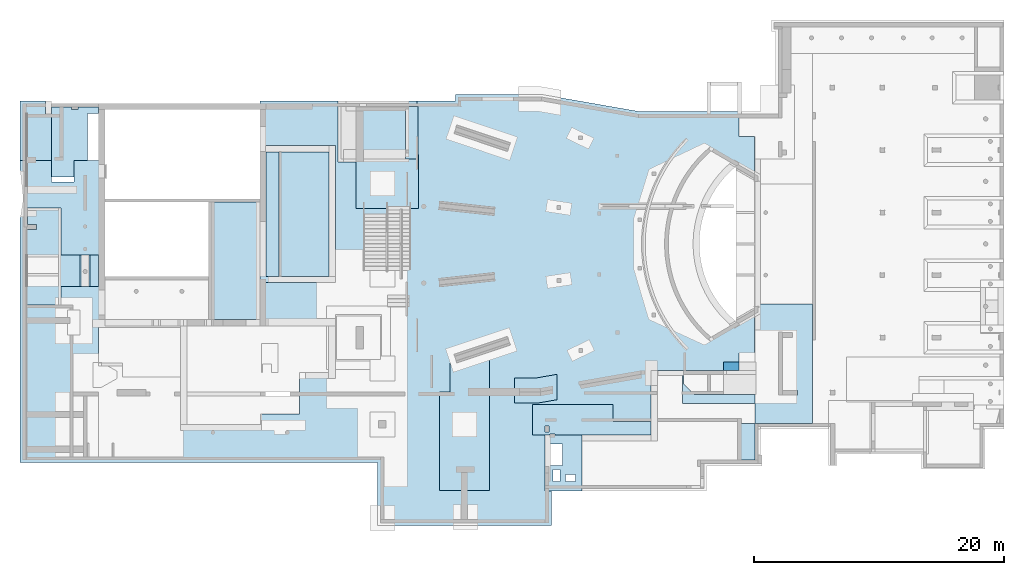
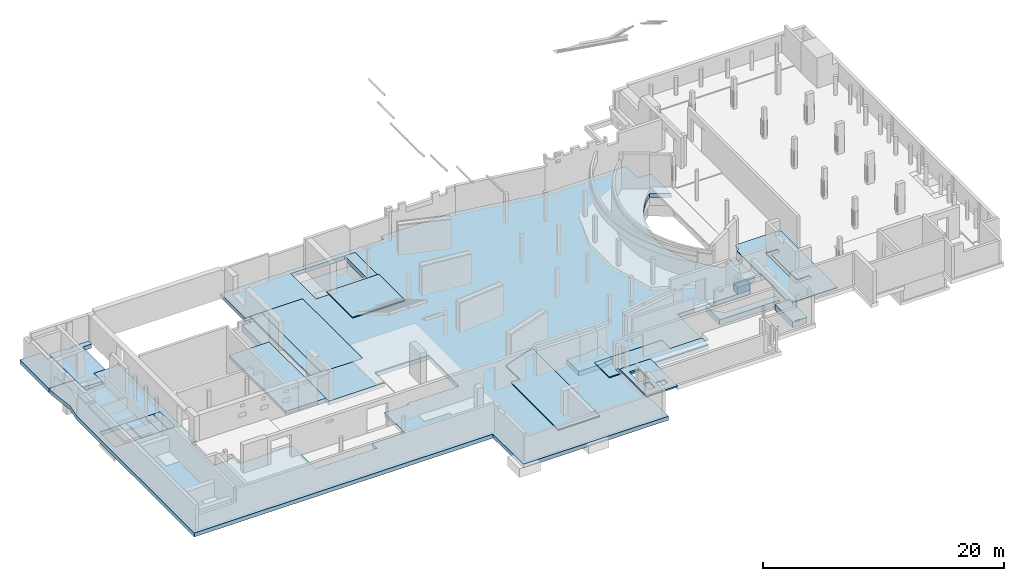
# One storey, part 29 of 42: 21 slabs, 8 openings.
"""IFC2X3 building model written with IfcOpenShell, lengths in millimetres."""

from ifc_helpers import new_model, entity, si_unit, converted_unit, derived_unit, direction, frame, frame_2d, origin, origin_2d_with_axis, place, context, subcontext, project, spatial, polyline, circle_curve, parameter, trimmed, segment, composite_curve, rectangle, circle, outline, extrude, material, layer, layer_set, layer_usage, type_object, element, save


model = new_model("IFC2X3")

# Units and contexts
model_context = context("Model", 3, precision=0.01, world=origin(), true_north=direction((6.12303176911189e-17, 1.0)))
body_context = subcontext(model_context, "Body", "Model", "MODEL_VIEW")
ifc_project = project(units=[si_unit("LENGTHUNIT", "METRE", prefix="MILLI"), si_unit("AREAUNIT", "SQUARE_METRE", prefix="MILLI"), si_unit("VOLUMEUNIT", "CUBIC_METRE"), converted_unit("PLANEANGLEUNIT", "DEGREE", entity("IfcRatioMeasure", 0.0174532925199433), si_unit("PLANEANGLEUNIT", "RADIAN"), dimensions=[0, 0, 0, 0, 0, 0, 0]), si_unit("MASSUNIT", "GRAM", prefix="KILO"), derived_unit("MASSDENSITYUNIT", [(si_unit("MASSUNIT", "GRAM", prefix="KILO"), 1), (si_unit("LENGTHUNIT", "METRE"), -3)]), derived_unit("MOMENTOFINERTIAUNIT", [(si_unit("LENGTHUNIT", "METRE"), 4)]), si_unit("TIMEUNIT", "SECOND"), si_unit("FREQUENCYUNIT", "HERTZ"), si_unit("THERMODYNAMICTEMPERATUREUNIT", "DEGREE_CELSIUS"), derived_unit("THERMALTRANSMITTANCEUNIT", [(si_unit("MASSUNIT", "GRAM", prefix="KILO"), 1), (si_unit("THERMODYNAMICTEMPERATUREUNIT", "KELVIN"), -1), (si_unit("TIMEUNIT", "SECOND"), -3)]), derived_unit("VOLUMETRICFLOWRATEUNIT", [(si_unit("LENGTHUNIT", "METRE"), 3), (si_unit("TIMEUNIT", "SECOND"), -1)]), si_unit("ELECTRICCURRENTUNIT", "AMPERE"), si_unit("ELECTRICVOLTAGEUNIT", "VOLT"), si_unit("POWERUNIT", "WATT"), si_unit("FORCEUNIT", "NEWTON", prefix="KILO"), si_unit("ILLUMINANCEUNIT", "LUX"), si_unit("LUMINOUSFLUXUNIT", "LUMEN"), si_unit("LUMINOUSINTENSITYUNIT", "CANDELA"), derived_unit("USERDEFINED", [(si_unit("MASSUNIT", "GRAM", prefix="KILO"), -1), (si_unit("LENGTHUNIT", "METRE"), -2), (si_unit("TIMEUNIT", "SECOND"), 3), (si_unit("LUMINOUSFLUXUNIT", "LUMEN"), 1)]), derived_unit("LINEARVELOCITYUNIT", [(si_unit("LENGTHUNIT", "METRE"), 1), (si_unit("TIMEUNIT", "SECOND"), -1)]), si_unit("PRESSUREUNIT", "PASCAL"), derived_unit("USERDEFINED", [(si_unit("LENGTHUNIT", "METRE"), -2), (si_unit("MASSUNIT", "GRAM", prefix="KILO"), 1), (si_unit("TIMEUNIT", "SECOND"), -2)]), derived_unit("LINEARFORCEUNIT", [(si_unit("MASSUNIT", "GRAM", prefix="KILO"), 1), (si_unit("LENGTHUNIT", "METRE"), 1), (si_unit("TIMEUNIT", "SECOND"), -2), (si_unit("LENGTHUNIT", "METRE"), -1)]), derived_unit("PLANARFORCEUNIT", [(si_unit("MASSUNIT", "GRAM", prefix="KILO"), 1), (si_unit("LENGTHUNIT", "METRE"), 1), (si_unit("TIMEUNIT", "SECOND"), -2), (si_unit("LENGTHUNIT", "METRE"), -2)])], contexts=[model_context])

# Site, building, storey
site_placement = place(None, origin())
site = spatial("IfcSite", under=ifc_project, at=site_placement, Name="Theater aan de Parade", CompositionType="ELEMENT")
building_placement = place(site_placement, origin())
building = spatial("IfcBuilding", under=site, at=building_placement, Name="Theater aan de Parade", CompositionType="ELEMENT")
storey_placement = place(building_placement, frame((0.0, 0.0, -3300.0)))
storey = spatial("IfcBuildingStorey", under=building, at=storey_placement, Name="-1 kelder", CompositionType="ELEMENT", Elevation=-3300.0)

# Slab, openings
ifc_material_1 = material(Name="00_PBT_MAT_beton t.p.g.")
ifc_layer_1 = layer(ifc_material_1, 400.0)
ifc_layer_set_1 = layer_set([ifc_layer_1], Name="Foundation Slab:13_PBT_FS_beton t.p.g._d=400_bestaand")
ifc_layer_usage_1 = layer_usage(ifc_layer_set_1, "AXIS3", "POSITIVE", 0.0)
slab_type_1 = type_object("IfcSlabType", Name="Foundation Slab:13_PBT_FS_beton t.p.g._d=400_bestaand", PredefinedType="BASESLAB")
slab_1_placement = place(storey_placement, frame((9990.0, 9960.0, -440.0)))
slab_1 = element("IfcSlab", 1, at=slab_1_placement, inside=storey, type_object=slab_type_1, material=ifc_layer_usage_1, Name="Foundation Slab:13_PBT_FS_beton t.p.g._d=400_bestaand", ObjectType="Foundation Slab:13_PBT_FS_beton t.p.g._d=400_bestaand", PredefinedType="BASESLAB", context=body_context, shape_type="SweptSolid", body=[
    extrude(outline(composite_curve([segment(polyline([(29375.8243425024, 11373.1771208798), (29375.8243425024, 11935.0)]), True, "CONTINUOUS"), segment(polyline([(29375.8243425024, 11935.0), (26855.8243425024, 11935.0)]), True, "CONTINUOUS"), segment(polyline([(26855.8243425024, 11935.0), (26855.8243425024, 10231.6178623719)]), True, "CONTINUOUS"), segment(polyline([(26855.8243425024, 10231.6178623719), (25055.8243425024, 10231.6178623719)]), True, "CONTINUOUS"), segment(polyline([(25055.8243425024, 10231.6178623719), (25055.8243425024, 11965.0)]), True, "CONTINUOUS"), segment(polyline([(25055.8243425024, 11965.0), (23090.8243425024, 11965.0)]), True, "CONTINUOUS"), segment(polyline([(23090.8243425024, 11965.0), (23090.8243425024, 12065.0)]), True, "CONTINUOUS"), segment(polyline([(23090.8243425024, 12065.0), (22590.8243425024, 12065.0)]), True, "CONTINUOUS"), segment(polyline([(22590.8243425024, 12065.0), (22590.8243425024, -775.0)]), True, "CONTINUOUS"), segment(polyline([(22590.8243425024, -775.0), (23090.8243425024, -775.0)]), True, "CONTINUOUS"), segment(polyline([(23090.8243425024, -775.0), (23090.8243425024, -4495.0)]), True, "CONTINUOUS"), segment(polyline([(23090.8243425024, -4495.0), (21185.8243425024, -4495.0)]), True, "CONTINUOUS"), segment(polyline([(21185.8243425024, -4495.0), (21185.8243425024, -5345.0)]), True, "CONTINUOUS"), segment(polyline([(21185.8243425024, -5345.0), (16040.8243425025, -5345.0)]), True, "CONTINUOUS"), segment(polyline([(16040.8243425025, -5345.0), (16040.8243425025, -9145.0)]), True, "CONTINUOUS"), segment(polyline([(16040.8243425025, -9145.0), (10125.8243425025, -9145.0)]), True, "CONTINUOUS"), segment(polyline([(10125.8243425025, -9145.0), (10125.8243425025, -8320.0)]), True, "CONTINUOUS"), segment(polyline([(10125.8243425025, -8320.0), (7025.82434250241, -8320.0)]), True, "CONTINUOUS"), segment(polyline([(7025.82434250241, -8320.0), (7025.82434250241, -4995.0)]), True, "CONTINUOUS"), segment(polyline([(7025.82434250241, -4995.0), (4685.8243425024, -4995.0)]), True, "CONTINUOUS"), segment(polyline([(4685.8243425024, -4995.0), (4685.8243425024, -4772.63259660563)]), True, "CONTINUOUS"), segment(polyline([(4685.8243425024, -4772.63259660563), (-239.175657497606, -4772.63259660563)]), True, "CONTINUOUS"), segment(polyline([(-239.175657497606, -4772.63259660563), (-239.175657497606, 327.367403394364)]), True, "CONTINUOUS"), segment(polyline([(-239.175657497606, 327.367403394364), (4860.82434250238, 327.367403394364)]), True, "CONTINUOUS"), segment(polyline([(4860.82434250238, 327.367403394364), (4860.82434250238, -1275.0)]), True, "CONTINUOUS"), segment(polyline([(4860.82434250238, -1275.0), (10190.8243425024, -1275.0)]), True, "CONTINUOUS"), segment(polyline([(10190.8243425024, -1275.0), (10190.8243425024, 2675.0)]), True, "CONTINUOUS"), segment(polyline([(10190.8243425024, 2675.0), (4675.8243425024, 2675.0)]), True, "CONTINUOUS"), segment(polyline([(4675.8243425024, 2675.0), (4675.8243425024, 12635.0)]), True, "CONTINUOUS"), segment(polyline([(4675.8243425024, 12635.0), (10190.8243425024, 12635.0)]), True, "CONTINUOUS"), segment(polyline([(10190.8243425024, 12635.0), (10190.8243425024, 16715.0)]), True, "CONTINUOUS"), segment(polyline([(10190.8243425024, 16715.0), (-5459.17565749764, 16715.0)]), True, "CONTINUOUS"), segment(polyline([(-5459.17565749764, 16715.0), (-5459.17565749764, 17225.0)]), True, "CONTINUOUS"), segment(polyline([(-5459.17565749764, 17225.0), (-12376.1671581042, 17225.0)]), True, "CONTINUOUS"), segment(polyline([(-12376.1671581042, 17225.0), (-20147.5957295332, 15865.0)]), True, "CONTINUOUS"), segment(polyline([(-20147.5957295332, 15865.0), (-28124.0237350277, 15865.0)]), True, "CONTINUOUS"), segment(polyline([(-28124.0237350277, 15865.0), (-28124.0237350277, 13875.0)]), True, "CONTINUOUS"), segment(polyline([(-28124.0237350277, 13875.0), (-29375.8243425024, 13875.0)]), True, "CONTINUOUS"), segment(polyline([(-29375.8243425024, 13875.0), (-29375.8243425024, 10512.0021356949)]), True, "CONTINUOUS"), segment(polyline([(-29375.8243425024, 10512.0021356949), (-27805.473256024, 11418.4814635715)]), True, "CONTINUOUS"), segment(trimmed(circle_curve(frame_2d((-32980.8166214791, 5280.44664939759), x_axis=(-1.0, 0.0)), 8028.67674840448), [parameter(129.867266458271)], [parameter(229.863764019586)], True, "PARAMETER"), False, "CONTINUOUS"), segment(polyline([(-27834.3445893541, -881.815593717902), (-29345.5161834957, -9.49740783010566)]), True, "CONTINUOUS"), segment(polyline([(-29345.5161834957, -9.49740783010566), (-29345.5161834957, -3425.0)]), True, "CONTINUOUS"), segment(polyline([(-29345.5161834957, -3425.0), (-28104.1756574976, -3425.0)]), True, "CONTINUOUS"), segment(polyline([(-28104.1756574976, -3425.0), (-28104.1756574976, -4845.0)]), True, "CONTINUOUS"), segment(polyline([(-28104.1756574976, -4845.0), (-21104.1756574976, -4845.0)]), True, "CONTINUOUS"), segment(polyline([(-21104.1756574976, -4845.0), (-21104.1756574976, -9985.0)]), True, "CONTINUOUS"), segment(polyline([(-21104.1756574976, -9985.0), (-13059.1756574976, -9985.0)]), True, "CONTINUOUS"), segment(polyline([(-13059.1756574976, -9985.0), (-13059.1756574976, -14475.0)]), True, "CONTINUOUS"), segment(polyline([(-13059.1756574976, -14475.0), (-13109.1756574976, -14475.0)]), True, "CONTINUOUS"), segment(polyline([(-13109.1756574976, -14475.0), (-13109.1756574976, -17225.0)]), True, "CONTINUOUS"), segment(polyline([(-13109.1756574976, -17225.0), (790.824342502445, -17225.0)]), True, "CONTINUOUS"), segment(polyline([(790.824342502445, -17225.0), (790.824342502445, -12195.0)]), True, "CONTINUOUS"), segment(polyline([(790.824342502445, -12195.0), (29375.8243425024, -12195.0)]), True, "CONTINUOUS"), segment(polyline([(29375.8243425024, -12195.0), (29375.8243425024, 7210.57943579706)]), True, "CONTINUOUS"), segment(polyline([(29375.8243425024, 7210.57943579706), (29115.6619871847, 8864.46869460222)]), True, "CONTINUOUS"), segment(polyline([(29115.6619871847, 8864.46869460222), (29375.8243425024, 11373.1771208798)]), True, "CONTINUOUS")], self_intersect=False)), frame((29375.8243425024, 17225.0, 400.0), z_axis=(0.0, 0.0, -1.0), x_axis=(-1.0, 0.0, 0.0)), (0.0, 0.0, 1.0), 400.0),
])
opening_1_placement = place(slab_1_placement, frame((3392.5, 20355.0, 400.0)))
element("IfcOpeningElement", 2, at=opening_1_placement, cuts=slab_1, Name="Foundation Slab:13_PBT_FS_beton t.p.g._d=400_bestaand:2", ObjectType="Opening", context=body_context, shape_type="SweptSolid", body=[
    extrude(rectangle(XDim=2499.99999999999, YDim=5785.00000000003, at=origin_2d_with_axis()), frame((0.0, 0.0, 0.0), z_axis=(0.0, 0.0, -1.0), x_axis=(0.0, -1.0, 0.0)), (0.0, 0.0, 1.0), 400.0),
])
opening_2_placement = place(slab_1_placement, frame((28743.869722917, 31390.0, 400.0)))
element("IfcOpeningElement", 3, at=opening_2_placement, cuts=slab_1, Name="Foundation Slab:13_PBT_FS_beton t.p.g._d=400_bestaand:3", ObjectType="Opening", context=body_context, shape_type="SweptSolid", body=[
    extrude(rectangle(XDim=4200.00000559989, YDim=6160.02318566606, at=origin_2d_with_axis()), frame((0.0, 0.0, 0.0), z_axis=(0.0, 0.0, 1.0), x_axis=(0.0, 1.0, 0.0)), (0.0, 0.0, -1.0), 400.0),
])

# Slabs
ifc_layer_2 = layer(ifc_material_1, 960.0)
ifc_layer_set_2 = layer_set([ifc_layer_2], Name="Foundation Slab:13_PBT_FS_beton t.p.g._d=960_bestaand")
ifc_layer_usage_2 = layer_usage(ifc_layer_set_2, "AXIS3", "POSITIVE", 0.0)
slab_type_2 = type_object("IfcSlabType", Name="Foundation Slab:13_PBT_FS_beton t.p.g._d=960_bestaand", PredefinedType="BASESLAB", material=ifc_layer_set_2)
slab_2_placement = place(storey_placement, origin())
element("IfcSlab", 4, at=slab_2_placement, inside=storey, type_object=slab_type_2, material=ifc_layer_usage_2, Name="Foundation Slab:13_PBT_FS_beton t.p.g._d=960_bestaand", ObjectType="Foundation Slab:13_PBT_FS_beton t.p.g._d=960_bestaand", PredefinedType="BASESLAB", context=body_context, shape_type="SweptSolid", body=[
    extrude(outline(polyline([(-3973.57020508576, -358.577545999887), (-3973.57020508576, -1078.56898160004), (1801.4297949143, -1078.56898160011), (1801.42979491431, 1176.43101839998), (1741.42979491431, 1176.43101839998), (1741.42979491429, 521.431018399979), (861.421230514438, -358.577545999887), (-3973.57020508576, -358.577545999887)])), frame((64776.4297949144, 20763.5689815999, -440.0), z_axis=(0.0, 0.0, -1.0), x_axis=(-1.0, 0.0, 0.0)), (0.0, 0.0, -1.0), 560.0),
])
ifc_layer_3 = layer(ifc_material_1, 150.0)
ifc_layer_set_3 = layer_set([ifc_layer_3], Name="Floor:28_PBT_FL_beton t.p.g._d=150_bestaand")
ifc_layer_usage_3 = layer_usage(ifc_layer_set_3, "AXIS3", "POSITIVE", 0.0)
slab_type_3 = type_object("IfcSlabType", Name="Floor:28_PBT_FL_beton t.p.g._d=150_bestaand", PredefinedType="FLOOR", material=ifc_layer_set_3)
slab_3_placement = place(storey_placement, origin())
element("IfcSlab", 5, at=slab_3_placement, inside=storey, type_object=slab_type_3, material=ifc_layer_usage_3, Name="Floor:28_PBT_FL_beton t.p.g._d=150_bestaand", ObjectType="Floor:28_PBT_FL_beton t.p.g._d=150_bestaand", PredefinedType="FLOOR", context=body_context, shape_type="SweptSolid", body=[
    extrude(outline(polyline([(-2577.77777777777, -1516.66666666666), (1912.22222222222, -1516.66666666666), (1912.22222222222, -1116.66666666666), (1912.22222222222, 23.3333333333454), (1912.22222222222, 973.333333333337), (1912.22222222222, 1423.33333333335), (-1827.77777777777, 1423.33333333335), (-2577.77777777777, 1423.33333333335), (-2577.77777777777, -1116.66666666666), (-2577.77777777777, -1516.66666666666)]), holes=[polyline([(-1257.77777777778, -231.666666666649), (-1257.77777777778, -1011.66666666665), (-1827.77777777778, -1011.66666666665), (-1827.77777777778, -231.666666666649), (-1257.77777777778, -231.666666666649)]), polyline([(1162.2222222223, 23.3333333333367), (-527.777777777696, 23.333333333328), (-527.777777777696, 973.333333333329), (1162.2222222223, 973.333333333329), (1162.2222222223, 23.3333333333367)]), polyline([(-877.777777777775, 213.333333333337), (-1827.77777777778, 213.333333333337), (-1827.77777777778, 783.333333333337), (-877.777777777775, 783.333333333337), (-877.777777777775, 213.333333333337)])]), frame((53398.3333333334, 15287.7777777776, 370.0), z_axis=(0.0, 0.0, 1.0), x_axis=(0.0, 1.0, 0.0)), (0.0, 0.0, 1.0), 150.0),
])
ifc_layer_4 = layer(ifc_material_1, 900.0)
ifc_layer_set_4 = layer_set([ifc_layer_4], Name="Foundation Slab:13_PBT_FS_beton t.p.g._d=900 poer_bestaand")
ifc_layer_usage_4 = layer_usage(ifc_layer_set_4, "AXIS3", "POSITIVE", 0.0)
slab_type_4 = type_object("IfcSlabType", Name="Foundation Slab:13_PBT_FS_beton t.p.g._d=900 poer_bestaand", PredefinedType="BASESLAB", material=ifc_layer_set_4)
slab_4_placement = place(storey_placement, origin())
element("IfcSlab", 6, at=slab_4_placement, inside=storey, type_object=slab_type_4, material=ifc_layer_usage_4, Name="Foundation Slab:13_PBT_FS_beton t.p.g._d=900 poer_bestaand", ObjectType="Foundation Slab:13_PBT_FS_beton t.p.g._d=900 poer_bestaand", PredefinedType="BASESLAB", context=body_context, shape_type="SweptSolid", body=[
    extrude(outline(polyline([(-843.927322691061, -1622.67534053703), (1186.46672773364, -1622.67534053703), (914.365148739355, -67.8091748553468), (914.365148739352, 1777.32465946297), (-1085.63485126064, 1777.32465946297), (-1085.63485126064, -241.489462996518), (-843.927322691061, -1622.67534053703)])), frame((51302.324659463, 20845.6348512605, -940.0), z_axis=(0.0, 0.0, 1.0), x_axis=(0.0, 1.0, 0.0)), (0.0, 0.0, 1.0), 500.0),
])

# Slab, openings
ifc_layer_5 = layer(ifc_material_1, 700.0)
ifc_layer_set_5 = layer_set([ifc_layer_5], Name="Foundation Slab:13_PBT_FS_beton t.p.g._d=700_bestaand")
ifc_layer_usage_5 = layer_usage(ifc_layer_set_5, "AXIS3", "POSITIVE", 0.0)
slab_type_5 = type_object("IfcSlabType", Name="Foundation Slab:13_PBT_FS_beton t.p.g._d=700_bestaand", PredefinedType="BASESLAB", material=ifc_layer_set_5)
slab_5_placement = place(storey_placement, frame((29175.0, 29360.0, -1740.0)))
slab_5 = element("IfcSlab", 7, at=slab_5_placement, inside=storey, type_object=slab_type_5, material=ifc_layer_usage_5, Name="Foundation Slab:13_PBT_FS_beton t.p.g._d=700_bestaand", ObjectType="Foundation Slab:13_PBT_FS_beton t.p.g._d=700_bestaand", PredefinedType="BASESLAB", context=body_context, shape_type="SweptSolid", body=[
    extrude(rectangle(XDim=10960.0, YDim=6040.00000000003, at=frame_2d((0.0, 0.0), x_axis=(0.0, 1.0))), frame((3020.0, 5480.0, 700.0), z_axis=(0.0, 0.0, -1.0), x_axis=(-1.0, 0.0, 0.0)), (0.0, 0.0, 1.0), 700.0),
])
opening_3_placement = place(slab_5_placement, frame((4769.78647640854, 9146.06168315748, 700.0)))
element("IfcOpeningElement", 8, at=opening_3_placement, cuts=slab_5, Name="Foundation Slab:13_PBT_FS_beton t.p.g._d=700_bestaand:2", ObjectType="Opening", context=body_context, shape_type="SweptSolid", body=[
    extrude(circle(Radius=161.950000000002, at=origin_2d_with_axis()), frame((0.0, 0.0, 0.0), z_axis=(0.0, 0.0, -1.0), x_axis=(1.0, 0.0, 0.0)), (0.0, 0.0, 1.0), 700.0),
])
opening_4_placement = place(slab_5_placement, frame((2269.78647640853, 9146.06168315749, 700.0)))
element("IfcOpeningElement", 9, at=opening_4_placement, cuts=slab_5, Name="Foundation Slab:13_PBT_FS_beton t.p.g._d=700_bestaand:3", ObjectType="Opening", context=body_context, shape_type="SweptSolid", body=[
    extrude(circle(Radius=161.950000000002, at=origin_2d_with_axis()), frame((0.0, 0.0, 0.0), z_axis=(0.0, 0.0, -1.0), x_axis=(1.0, 0.0, 0.0)), (0.0, 0.0, 1.0), 700.0),
])
opening_5_placement = place(slab_5_placement, frame((4769.78647640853, 1821.4704211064, 700.0)))
element("IfcOpeningElement", 10, at=opening_5_placement, cuts=slab_5, Name="Foundation Slab:13_PBT_FS_beton t.p.g._d=700_bestaand:4", ObjectType="Opening", context=body_context, shape_type="SweptSolid", body=[
    extrude(circle(Radius=161.950000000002, at=origin_2d_with_axis()), frame((0.0, 0.0, 0.0), z_axis=(0.0, 0.0, -1.0), x_axis=(1.0, 0.0, 0.0)), (0.0, 0.0, 1.0), 700.0),
])
opening_6_placement = place(slab_5_placement, frame((2269.78647640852, 1821.47042110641, 700.0)))
element("IfcOpeningElement", 11, at=opening_6_placement, cuts=slab_5, Name="Foundation Slab:13_PBT_FS_beton t.p.g._d=700_bestaand:5", ObjectType="Opening", context=body_context, shape_type="SweptSolid", body=[
    extrude(circle(Radius=161.950000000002, at=origin_2d_with_axis()), frame((0.0, 0.0, 0.0), z_axis=(0.0, 0.0, -1.0), x_axis=(1.0, 0.0, 0.0)), (0.0, 0.0, 1.0), 700.0),
])

# Slabs
ifc_layer_usage_6 = layer_usage(ifc_layer_set_3, "AXIS3", "POSITIVE", 0.0)
slab_type_6 = type_object("IfcSlabType", Name="Floor:28_PBT_FL_beton t.p.g._d=150_bestaand", PredefinedType="FLOOR", material=ifc_layer_set_3)
slab_6_placement = place(storey_placement, origin())
element("IfcSlab", 12, at=slab_6_placement, inside=storey, type_object=slab_type_6, material=ifc_layer_usage_6, Name="Floor:28_PBT_FL_beton t.p.g._d=150_bestaand", ObjectType="Floor:28_PBT_FL_beton t.p.g._d=150_bestaand", PredefinedType="FLOOR", context=body_context, shape_type="SweptSolid", body=[
    extrude(rectangle(XDim=9960.00000000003, YDim=1040.0, at=frame_2d((0.0, -2.1600499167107e-12), x_axis=(1.0, 0.0))), frame((30195.0, 34840.0, -40.0), z_axis=(0.0, 0.0, -1.0), x_axis=(0.0, 1.0, 0.0)), (0.0, 0.0, 1.0), 150.0),
])
ifc_layer_6 = layer(ifc_material_1, 200.0)
ifc_layer_set_6 = layer_set([ifc_layer_6], Name="Floor:28_PBT_FL_beton t.p.g._d=200_bestaand")
ifc_layer_usage_7 = layer_usage(ifc_layer_set_6, "AXIS3", "POSITIVE", 0.0)
slab_type_7 = type_object("IfcSlabType", Name="Floor:28_PBT_FL_beton t.p.g._d=200_bestaand", PredefinedType="FLOOR", material=ifc_layer_set_6)
slab_7_placement = place(storey_placement, origin())
element("IfcSlab", 13, at=slab_7_placement, inside=storey, type_object=slab_type_7, material=ifc_layer_usage_7, Name="Floor:28_PBT_FL_beton t.p.g._d=200_bestaand", ObjectType="Floor:28_PBT_FL_beton t.p.g._d=200_bestaand", PredefinedType="FLOOR", context=body_context, shape_type="SweptSolid", body=[
    extrude(rectangle(XDim=2499.99999999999, YDim=671.142997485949, at=origin_2d_with_axis()), frame((15939.4285012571, 30315.0, -240.0), z_axis=(0.0, 0.0, 1.0), x_axis=(0.0, -1.0, 0.0)), (0.0, 0.0, 1.0), 200.0),
    extrude(rectangle(XDim=2499.99999999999, YDim=1738.85700251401, at=origin_2d_with_axis()), frame((13934.4285012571, 30315.0, -240.0), z_axis=(0.0, 0.0, 1.0), x_axis=(0.0, 1.0, 0.0)), (0.0, 0.0, 1.0), 200.0),
])
ifc_material_2 = material(Name="00_PBT_MAT_beton t.p.g._C30/37")
ifc_layer_7 = layer(ifc_material_2, 400.0)
ifc_layer_set_7 = layer_set([ifc_layer_7], Name="Floor:28_PBT_FL_beton t.p.g._d=400_C30/37")
ifc_layer_usage_8 = layer_usage(ifc_layer_set_7, "AXIS3", "POSITIVE", 0.0)
slab_type_8 = type_object("IfcSlabType", Name="Floor:28_PBT_FL_beton t.p.g._d=400_C30/37", PredefinedType="FLOOR", material=ifc_layer_set_7)
slab_8_placement = place(storey_placement, origin())
element("IfcSlab", 14, at=slab_8_placement, inside=storey, type_object=slab_type_8, material=ifc_layer_usage_8, Name="Floor:28_PBT_FL_beton t.p.g._d=400_C30/37", ObjectType="Floor:28_PBT_FL_beton t.p.g._d=400_C30/37", PredefinedType="FLOOR", context=body_context, shape_type="SweptSolid", body=[
    extrude(outline(polyline([(-3833.86544858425, -2024.1666666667), (1756.51668904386, -2024.1666666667), (1756.51668904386, -434.166666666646), (1556.51668904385, -434.166666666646), (1556.51668904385, 75.8333333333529), (1756.51668904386, 75.8333333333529), (1756.51668904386, 1740.83333333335), (1257.79869240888, 1740.83333333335), (1257.79869240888, 865.833333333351), (-2493.48331095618, 865.833333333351), (-2493.48331095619, -224.166666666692), (-3833.86544858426, -224.166666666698), (-3833.86544858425, -2024.1666666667)])), frame((14534.1666666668, 41643.483310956, -40.0), z_axis=(0.0, 0.0, -1.0), x_axis=(0.0, 1.0, 0.0)), (0.0, 0.0, 1.0), 400.0),
])
ifc_layer_8 = layer(ifc_material_2, 250.0)
ifc_layer_set_8 = layer_set([ifc_layer_8], Name="Floor:28_PBT_FL_beton t.p.g._d=250_C30/37_uitvulling n.t.b.")
ifc_layer_usage_9 = layer_usage(ifc_layer_set_8, "AXIS3", "POSITIVE", 0.0)
slab_type_9 = type_object("IfcSlabType", Name="Floor:28_PBT_FL_beton t.p.g._d=250_C30/37_uitvulling n.t.b.", PredefinedType="FLOOR", material=ifc_layer_set_8)
slab_9_placement = place(storey_placement, origin())
element("IfcSlab", 15, at=slab_9_placement, inside=storey, type_object=slab_type_9, material=ifc_layer_usage_9, Name="Floor:28_PBT_FL_beton t.p.g._d=250_C30/37_uitvulling n.t.b.", ObjectType="Floor:28_PBT_FL_beton t.p.g._d=250_C30/37_uitvulling n.t.b.", PredefinedType="FLOOR", context=body_context, shape_type="SweptSolid", body=[
    extrude(rectangle(XDim=9960.00000000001, YDim=3975.00000000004, at=frame_2d((0.0, 4.32009983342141e-12), x_axis=(1.0, 0.0))), frame((32702.5000000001, 34840.0, -40.0), z_axis=(0.0, 0.0, -1.0), x_axis=(0.0, 1.0, 0.0)), (0.0, 0.0, 1.0), 250.0),
])
ifc_layer_9 = layer(ifc_material_2, 500.0)
ifc_layer_set_9 = layer_set([ifc_layer_9], Name="Foundation Slab:13_PBT_FS_beton t.p.g._d=500_C30/37")
ifc_layer_usage_10 = layer_usage(ifc_layer_set_9, "AXIS3", "POSITIVE", 0.0)
slab_type_10 = type_object("IfcSlabType", Name="Foundation Slab:13_PBT_FS_beton t.p.g._d=500_C30/37", PredefinedType="BASESLAB", material=ifc_layer_set_9)
slab_10_placement = place(storey_placement, origin())
element("IfcSlab", 16, at=slab_10_placement, inside=storey, type_object=slab_type_10, material=ifc_layer_usage_10, Name="Foundation Slab:13_PBT_FS_beton t.p.g._d=500_C30/37", ObjectType="Foundation Slab:13_PBT_FS_beton t.p.g._d=500_C30/37", PredefinedType="BASESLAB", context=body_context, shape_type="SweptSolid", body=[
    extrude(rectangle(XDim=4900.00000559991, YDim=6349.9999974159, at=frame_2d((-4.32009983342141e-12, 2.04636307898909e-12), x_axis=(1.0, 0.0))), frame((38578.858128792, 41450.0, -1600.0), z_axis=(0.0, 0.0, -1.0), x_axis=(0.0, 1.0, 0.0)), (0.0, 0.0, 1.0), 500.0),
])
ifc_layer_10 = layer(ifc_material_2, 200.0)
ifc_layer_set_10 = layer_set([ifc_layer_10], Name="Floor:28_PBT_FL_beton t.p.g._d=200_C30/37")
ifc_layer_usage_11 = layer_usage(ifc_layer_set_10, "AXIS3", "POSITIVE", 0.0)
slab_type_11 = type_object("IfcSlabType", Name="Floor:28_PBT_FL_beton t.p.g._d=200_C30/37", PredefinedType="FLOOR", material=ifc_layer_set_10)
slab_11_placement = place(storey_placement, origin())
element("IfcSlab", 17, at=slab_11_placement, inside=storey, type_object=slab_type_11, material=ifc_layer_usage_11, Name="Floor:28_PBT_FL_beton t.p.g._d=200_C30/37", ObjectType="Floor:28_PBT_FL_beton t.p.g._d=200_C30/37", PredefinedType="FLOOR", context=body_context, shape_type="SweptSolid", body=[
    extrude(rectangle(XDim=2499.99999999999, YDim=800.000000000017, at=origin_2d_with_axis()), frame((15203.8570025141, 30315.0, -40.0), z_axis=(0.0, 0.0, -1.0), x_axis=(0.0, 1.0, 0.0)), (0.0, 0.0, 1.0), 200.0),
])
ifc_layer_usage_12 = layer_usage(ifc_layer_set_1, "AXIS3", "POSITIVE", 0.0)
slab_type_12 = type_object("IfcSlabType", Name="Foundation Slab:13_PBT_FS_beton t.p.g._d=400_bestaand", PredefinedType="BASESLAB", material=ifc_layer_set_1)
slab_12_placement = place(storey_placement, origin())
element("IfcSlab", 18, at=slab_12_placement, inside=storey, type_object=slab_type_12, material=ifc_layer_usage_12, Name="Foundation Slab:13_PBT_FS_beton t.p.g._d=400_bestaand", ObjectType="Foundation Slab:13_PBT_FS_beton t.p.g._d=400_bestaand", PredefinedType="BASESLAB", context=body_context, shape_type="SweptSolid", body=[
    extrude(outline(polyline([(-2843.33333334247, -1513.33333333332), (1936.66666668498, -1513.33333333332), (1936.66666668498, 506.666666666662), (906.666666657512, 506.666666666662), (906.666666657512, 1006.66666666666), (-2843.33333334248, 1006.66666666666), (-2843.33333334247, -1513.33333333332)])), frame((11503.3333333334, 41963.333333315, -40.0), z_axis=(0.0, 0.0, -1.0), x_axis=(0.0, 1.0, 0.0)), (0.0, 0.0, 1.0), 400.0),
])
ifc_layer_11 = layer(ifc_material_2, 300.0)
ifc_layer_set_11 = layer_set([ifc_layer_11], Name="Floor:28_PBT_FL_staalplaatbeton_d=300_C30/37")
ifc_layer_usage_13 = layer_usage(ifc_layer_set_11, "AXIS3", "POSITIVE", 0.0)
slab_type_13 = type_object("IfcSlabType", Name="Floor:28_PBT_FL_staalplaatbeton_d=300_C30/37", PredefinedType="FLOOR", material=ifc_layer_set_11)
slab_13_placement = place(storey_placement, origin())
element("IfcSlab", 19, at=slab_13_placement, inside=storey, type_object=slab_type_13, material=ifc_layer_usage_13, Name="Floor:28_PBT_FL_staalplaatbeton_d=300_C30/37", ObjectType="Floor:28_PBT_FL_staalplaatbeton_d=300_C30/37", PredefinedType="FLOOR", context=body_context, shape_type="SweptSolid", body=[
    extrude(rectangle(XDim=9403.0, YDim=3849.99999999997, at=frame_2d((2.27373675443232e-12, 2.1600499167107e-12), x_axis=(1.0, 0.0))), frame((27250.0, 31111.4999999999, -40.0), z_axis=(0.0, 0.0, -1.0), x_axis=(0.0, 1.0, 0.0)), (0.0, 0.0, 1.0), 300.0),
])
ifc_layer_12 = layer(ifc_material_2, 400.0)
ifc_layer_set_12 = layer_set([ifc_layer_12], Name="Foundation Slab:13_PBT_FS_beton t.p.g._d=400_C30/37")
ifc_layer_usage_14 = layer_usage(ifc_layer_set_12, "AXIS3", "POSITIVE", 0.0)
slab_type_14 = type_object("IfcSlabType", Name="Foundation Slab:13_PBT_FS_beton t.p.g._d=400_C30/37", PredefinedType="BASESLAB", material=ifc_layer_set_12)
slab_14_placement = place(storey_placement, origin())
element("IfcSlab", 20, at=slab_14_placement, inside=storey, type_object=slab_type_14, material=ifc_layer_usage_14, Name="Foundation Slab:13_PBT_FS_beton t.p.g._d=400_C30/37", ObjectType="Foundation Slab:13_PBT_FS_beton t.p.g._d=400_C30/37", PredefinedType="BASESLAB", context=body_context, shape_type="SweptSolid", body=[
    extrude(rectangle(XDim=4200.00000559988, YDim=1010.02318825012, at=frame_2d((4.32009983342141e-12, 4.34852154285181e-12), x_axis=(1.0, 0.0))), frame((41308.8697216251, 41350.0, -40.0), z_axis=(0.0, 0.0, -1.0), x_axis=(0.0, 1.0, 0.0)), (0.0, 0.0, 1.0), 400.0),
])

# Slab, opening
ifc_layer_13 = layer(ifc_material_2, 100.0)
ifc_layer_set_13 = layer_set([ifc_layer_13], Name="Floor:28_PBT_FL_druklaag_d=100_C30/37")
ifc_layer_usage_15 = layer_usage(ifc_layer_set_13, "AXIS3", "POSITIVE", 0.0)
slab_type_15 = type_object("IfcSlabType", Name="Floor:28_PBT_FL_druklaag_d=100_C30/37", PredefinedType="FLOOR", material=ifc_layer_set_13)
slab_15_placement = place(storey_placement, frame((68750.0, 18105.0, 660.0)))
slab_15 = element("IfcSlab", 21, at=slab_15_placement, inside=storey, type_object=slab_type_15, material=ifc_layer_usage_15, Name="Floor:28_PBT_FL_druklaag_d=100_C30/37", ObjectType="Floor:28_PBT_FL_druklaag_d=100_C30/37", PredefinedType="FLOOR", context=body_context, shape_type="SweptSolid", body=[
    extrude(outline(polyline([(-2300.0, 4767.49999999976), (-2300.0, -4767.49999999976), (2300.0, -4767.49999999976), (2300.0, -2467.50856439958), (2218.74389903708, -2467.50856439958), (2218.74389903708, 132.491435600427), (2300.0, 132.491435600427), (2300.0, 3978.92406518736), (2030.0, 4134.78056163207), (2030.0, 4767.49999999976), (-2300.0, 4767.49999999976)])), frame((2300.0, 4767.49999999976, 100.0), z_axis=(0.0, 0.0, -1.0), x_axis=(-1.0, 0.0, 0.0)), (0.0, 0.0, 1.0), 100.0),
])
opening_7_placement = place(slab_15_placement, frame((2558.0, 5273.0, 100.0)))
element("IfcOpeningElement", 22, at=opening_7_placement, cuts=slab_15, Name="Floor:28_PBT_FL_druklaag_d=100_C30/37:2", ObjectType="Opening", context=body_context, shape_type="SweptSolid", body=[
    extrude(outline(polyline([(-2983.0, -648.0), (2032.0, -648.0), (2032.0, -348.0), (1992.0, -348.0), (1992.0, 472.0), (1592.0, 472.0), (1592.0, -348.0), (-2633.0, -348.0), (-2633.0, 872.0), (-2983.0, 872.0), (-2983.0, -648.0)])), frame((0.0, 0.0, 0.0), z_axis=(0.0, 0.0, -1.0), x_axis=(0.0, 1.0, 0.0)), (0.0, 0.0, 1.0), 100.0),
])

# Slab
ifc_layer_14 = layer(ifc_material_2, 600.0)
ifc_layer_set_14 = layer_set([ifc_layer_14], Name="Floor:28_PBT_FL_druklaag_d=600_C30/37")
ifc_layer_usage_16 = layer_usage(ifc_layer_set_14, "AXIS3", "POSITIVE", 0.0)
slab_type_16 = type_object("IfcSlabType", Name="Floor:28_PBT_FL_druklaag_d=600_C30/37", PredefinedType="FLOOR", material=ifc_layer_set_14)
slab_16_placement = place(storey_placement, origin())
element("IfcSlab", 23, at=slab_16_placement, inside=storey, type_object=slab_type_16, material=ifc_layer_usage_16, Name="Floor:28_PBT_FL_druklaag_d=600_C30/37", ObjectType="Floor:28_PBT_FL_druklaag_d=600_C30/37", PredefinedType="FLOOR", context=body_context, shape_type="SweptSolid", body=[
    extrude(rectangle(XDim=2935.00000000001, YDim=1393.7438990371, at=frame_2d((1.13686837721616e-12, 0.0), x_axis=(1.0, 0.0))), frame((68053.1280504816, 16637.4999999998, 1120.0), z_axis=(0.0, 0.0, -1.0), x_axis=(0.0, 1.0, 0.0)), (0.0, 0.0, 1.0), 600.0),
])

# Slab, opening
ifc_layer_usage_17 = layer_usage(ifc_layer_set_13, "AXIS3", "POSITIVE", 0.0)
slab_type_17 = type_object("IfcSlabType", Name="Floor:28_PBT_FL_druklaag_d=100_C30/37", PredefinedType="FLOOR", material=ifc_layer_set_13)
slab_17_placement = place(storey_placement, frame((50975.0, 17200.0, -40.0)))
slab_17 = element("IfcSlab", 24, at=slab_17_placement, inside=storey, type_object=slab_type_17, material=ifc_layer_usage_17, Name="Floor:28_PBT_FL_druklaag_d=100_C30/37", ObjectType="Floor:28_PBT_FL_druklaag_d=100_C30/37", PredefinedType="FLOOR", context=body_context, shape_type="SweptSolid", body=[
    extrude(outline(polyline([(-1702.5, 1218.18372650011), (-1702.5, -156.816273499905), (-4747.50000000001, -156.816273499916), (-4747.50000000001, -1218.18372650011), (2937.50000000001, -1218.18372650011), (2937.50000000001, -1168.18372650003), (3357.50000000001, -1168.18372650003), (3357.50000000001, -1218.18372650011), (4747.50000000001, -1218.18372650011), (4747.50000000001, 1218.18372650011), (-1702.5, 1218.18372650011)])), frame((4747.50000000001, 1218.18372650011, 100.0), z_axis=(0.0, 0.0, -1.0), x_axis=(-1.0, 0.0, 0.0)), (0.0, 0.0, 1.0), 100.0),
])
opening_8_placement = place(slab_17_placement, frame((1150.0, 460.0, 100.0)))
element("IfcOpeningElement", 25, at=opening_8_placement, cuts=slab_17, Name="Floor:28_PBT_FL_druklaag_d=100_C30/37:2", ObjectType="Opening", context=body_context, shape_type="SweptSolid", body=[
    extrude(rectangle(XDim=300.000000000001, YDim=500.000000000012, at=origin_2d_with_axis()), frame((0.0, 0.0, 0.0), z_axis=(0.0, 0.0, -1.0), x_axis=(-1.0, 0.0, 0.0)), (0.0, 0.0, 1.0), 100.0),
])

# Slabs
ifc_layer_usage_18 = layer_usage(ifc_layer_set_13, "AXIS3", "POSITIVE", 0.0)
slab_type_18 = type_object("IfcSlabType", Name="Floor:28_PBT_FL_druklaag_d=100_C30/37", PredefinedType="FLOOR", material=ifc_layer_set_13)
slab_18_placement = place(storey_placement, origin())
element("IfcSlab", 26, at=slab_18_placement, inside=storey, type_object=slab_type_18, material=ifc_layer_usage_18, Name="Floor:28_PBT_FL_druklaag_d=100_C30/37", ObjectType="Floor:28_PBT_FL_druklaag_d=100_C30/37", PredefinedType="FLOOR", context=body_context, shape_type="SweptSolid", body=[
    extrude(outline(polyline([(-6191.4203245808, -1620.74330342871), (1669.9471284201, -1620.74330342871), (1669.94712842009, -758.513393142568), (3996.52968447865, -758.513393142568), (5046.41670784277, 2379.25669657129), (-6191.4203245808, 2379.25669657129), (-6191.4203245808, -1620.74330342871)])), frame((45145.7433034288, 18941.4203245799, 60.0), z_axis=(0.0, 0.0, -1.0), x_axis=(0.0, 1.0, 0.0)), (0.0, 0.0, 1.0), 100.0),
])
ifc_layer_usage_19 = layer_usage(ifc_layer_set_13, "AXIS3", "POSITIVE", 0.0)
slab_type_19 = type_object("IfcSlabType", Name="Floor:28_PBT_FL_druklaag_d=100_C30/37", PredefinedType="FLOOR", material=ifc_layer_set_13)
slab_19_placement = place(storey_placement, origin())
element("IfcSlab", 27, at=slab_19_placement, inside=storey, type_object=slab_type_19, material=ifc_layer_usage_19, Name="Floor:28_PBT_FL_druklaag_d=100_C30/37", ObjectType="Floor:28_PBT_FL_druklaag_d=100_C30/37", PredefinedType="FLOOR", context=body_context, shape_type="SweptSolid", body=[
    extrude(rectangle(XDim=4310.00000000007, YDim=5011.14186991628, at=frame_2d((4.32009983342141e-12, 4.32009983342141e-12), x_axis=(1.0, 0.0))), frame((39359.429065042, 37465.0, 60.0), z_axis=(0.0, 0.0, -1.0), x_axis=(0.0, 1.0, 0.0)), (0.0, 0.0, 1.0), 100.0),
])
ifc_material_3 = material(Name="00_PBT_MAT_beton t.p.g._C53/65")
ifc_layer_15 = layer(ifc_material_3, 700.0)
ifc_layer_set_15 = layer_set([ifc_layer_15], Name="Floor:16_PBT_SFO_poerconstructie_d=700_C53/65")
ifc_layer_usage_20 = layer_usage(ifc_layer_set_15, "AXIS3", "POSITIVE", 0.0)
slab_type_20 = type_object("IfcSlabType", Name="Floor:16_PBT_SFO_poerconstructie_d=700_C53/65", PredefinedType="FLOOR", material=ifc_layer_set_15)
slab_20_placement = place(storey_placement, origin())
element("IfcSlab", 28, at=slab_20_placement, inside=storey, type_object=slab_type_20, material=ifc_layer_usage_20, Name="Floor:16_PBT_SFO_poerconstructie_d=700_C53/65", ObjectType="Floor:16_PBT_SFO_poerconstructie_d=700_C53/65", PredefinedType="FLOOR", context=body_context, shape_type="SweptSolid", body=[
    extrude(rectangle(XDim=664.991435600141, YDim=1238.74389903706, at=frame_2d((-2.18847162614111e-12, 0.0), x_axis=(1.0, 0.0))), frame((66850.6280504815, 22672.4957177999, 660.0), z_axis=(0.0, 0.0, -1.0), x_axis=(0.0, 1.0, 0.0)), (0.0, 0.0, 1.0), 700.0),
])
ifc_layer_16 = layer(ifc_material_2, 250.0)
ifc_layer_set_16 = layer_set([ifc_layer_16], Name="Floor:28_PBT_FL_beton t.p.g._d=250_C30/37")
ifc_layer_usage_21 = layer_usage(ifc_layer_set_16, "AXIS3", "POSITIVE", 0.0)
slab_type_21 = type_object("IfcSlabType", Name="Floor:28_PBT_FL_beton t.p.g._d=250_C30/37", PredefinedType="FLOOR", material=ifc_layer_set_16)
slab_21_placement = place(storey_placement, origin())
element("IfcSlab", 29, at=slab_21_placement, inside=storey, type_object=slab_type_21, material=ifc_layer_usage_21, Name="Floor:28_PBT_FL_beton t.p.g._d=250_C30/37", ObjectType="Floor:28_PBT_FL_beton t.p.g._d=250_C30/37", PredefinedType="FLOOR", context=body_context, shape_type="SweptSolid", body=[
    extrude(outline(polyline([(-5055.50000000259, -870.443723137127), (974.499999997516, -870.443723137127), (974.499999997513, -134.556276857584), (1374.4999999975, -134.556276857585), (1374.49999999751, -824.556276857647), (2706.50000000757, -824.556276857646), (2706.50000000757, 1829.55627685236), (-5055.50000000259, 1829.55627685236), (-5055.50000000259, -870.443723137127)])), frame((11424.5562768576, 32625.5000000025, 1410.0), z_axis=(0.0, 0.0, -1.0), x_axis=(0.0, 1.0, 0.0)), (0.0, 0.0, 1.0), 250.0),
])

save(model, "model.ifc")
